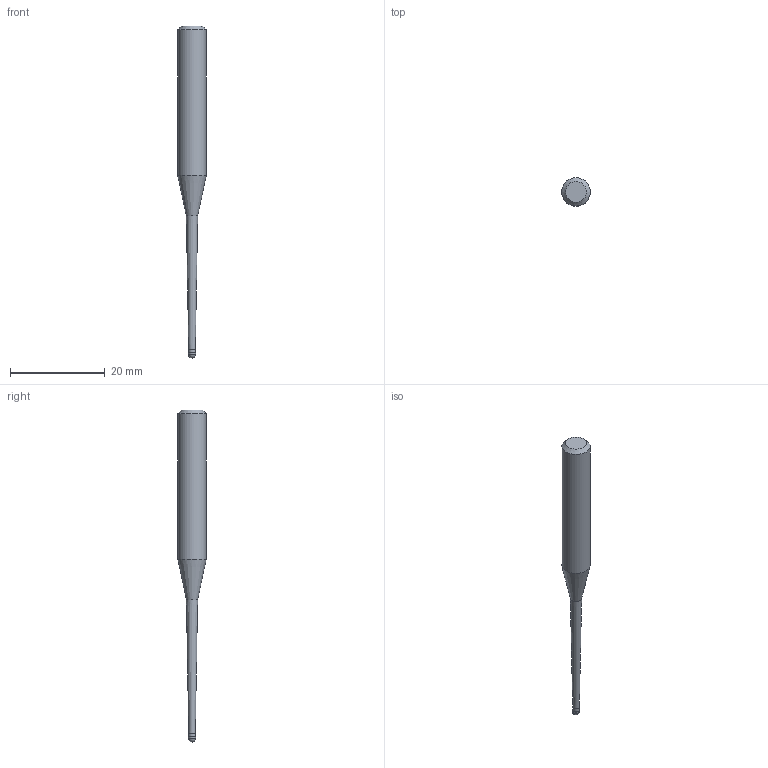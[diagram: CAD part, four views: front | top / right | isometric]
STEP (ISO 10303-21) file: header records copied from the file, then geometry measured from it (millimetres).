
FILE_DESCRIPTION((''),'2;1');
FILE_NAME('C:\Users\nsx150\AppData\Local\Temp\Mastercam 2021\E0ENTZRV18\TEMP.step','2021-09-02T09:56:32',(''),(''),'STEP Write','Mastercam 2021 ... CNC Software, Inc.','');
FILE_SCHEMA(('AUTOMOTIVE_DESIGN'));
Length unit declared in the file: millimetre
Products named in the file (1): None
Bounding box: 6 x 6 x 70 mm (x, y, z)
Volume: 1093.4 mm3; surface area: 905.9 mm2
Topology: 2 solids, 2 shells, 10 faces, 16 edges, 9 vertices
Faces by surface type: plane 3, cylinder 3, cone 3, sphere 1
Full cylindrical faces by diameter (mm): 1.39 x1, 1.5 x1, 6 x1
Entity records: 232 total; most frequent: DIRECTION 40, CARTESIAN_POINT 28, AXIS2_PLACEMENT_3D 20, ORIENTED_EDGE 16, EDGE_LOOP 16, STYLED_ITEM 13, ADVANCED_FACE 10, FACE_BOUND 9
